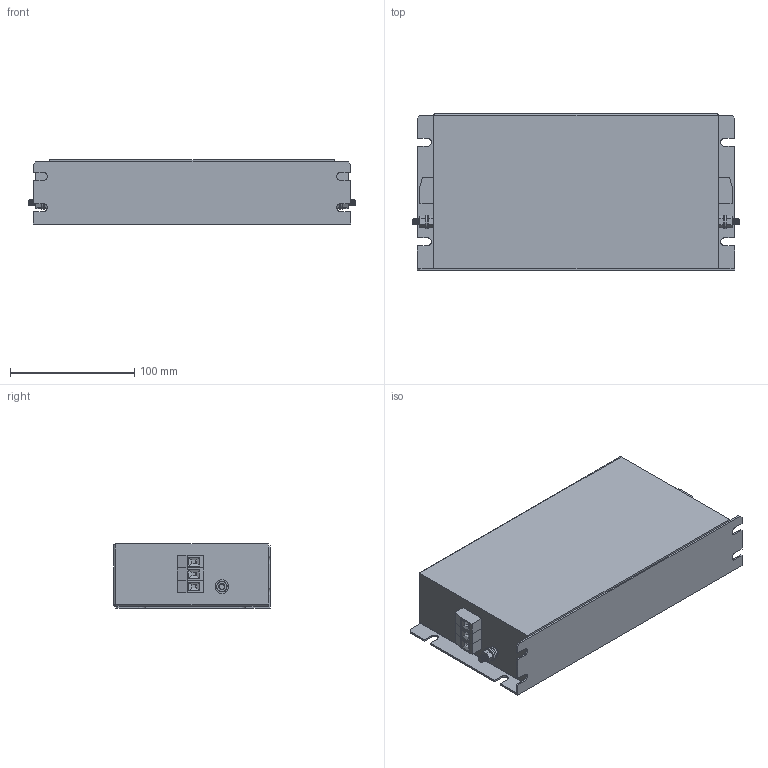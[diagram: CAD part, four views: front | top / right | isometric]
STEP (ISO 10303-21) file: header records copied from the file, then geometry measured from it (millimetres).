
FILE_DESCRIPTION (( 'STEP AP203' ), '1' );
FILE_NAME ('NF-R-7.STEP', '2021-03-11T17:39:08', ( '' ), ( '' ), 'SwSTEP 2.0', 'SolidWorks 2017', '' );
FILE_SCHEMA (( 'CONFIG_CONTROL_DESIGN' ));
Length unit declared in the file: millimetre
Products named in the file (8): flat washer narrow_am_B18.22M - Plain washer, 5 mm, narrow; NF-R-7; M5x20 Earth post; VDFK-4; VDFK4x3; hex nut style 1_am_B18.2.4.1M - Hex nut, Style 1,  M5 x 0.8 --D-N; hex screw_am_B18.6.7M - M5 x 0.8 x 13 Indented HHMS --13S
Assembly tree (12 placements, depth 3):
  NF-R-7
    NF-R-7
    M5x20 Earth post  x2
      flat washer narrow_am_B18.22M - Plain washer, 5 mm, narrow
      hex nut style 1_am_B18.2.4.1M - Hex nut, Style 1,  M5 x 0.8 --D-N
      hex screw_am_B18.6.7M - M5 x 0.8 x 13 Indented HHMS --13S
    VDFK4x3  x2
      VDFK-4
Bounding box: 262.6 x 126 x 51.5 mm (x, y, z)
Volume: 1465915.7 mm3; surface area: 134625.6 mm2
Topology: 15 solids, 15 shells, 607 faces, 1501 edges, 950 vertices
Faces by surface type: plane 285, cone 176, cylinder 144, sphere 2
Entity records: 8900 total; most frequent: CARTESIAN_POINT 1503, DIRECTION 1438, ORIENTED_EDGE 1308, EDGE_CURVE 654, AXIS2_PLACEMENT_3D 547, VERTEX_POINT 412, LINE 344, VECTOR 344
